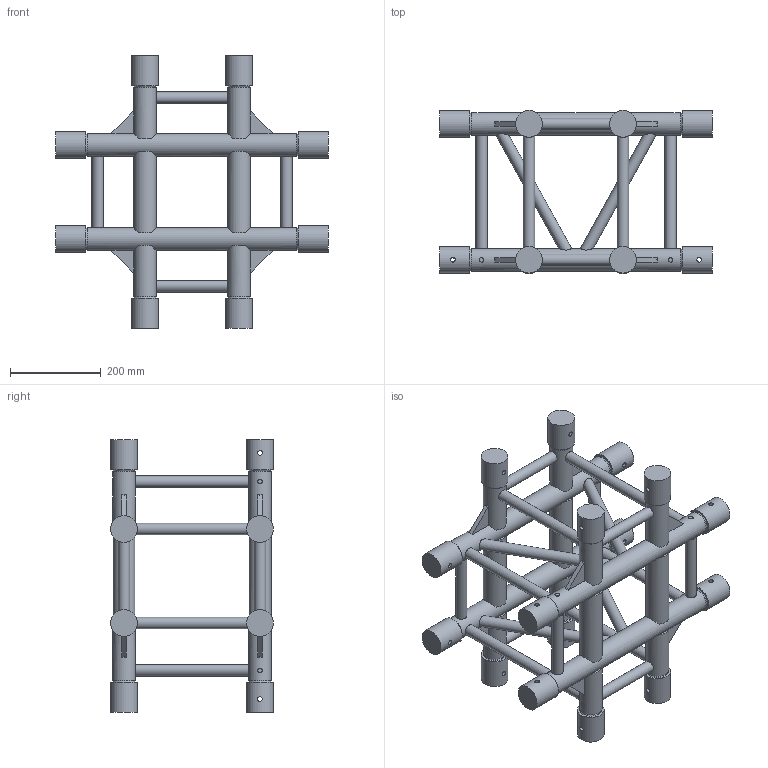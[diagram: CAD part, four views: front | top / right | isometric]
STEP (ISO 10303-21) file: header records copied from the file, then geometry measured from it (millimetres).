
FILE_DESCRIPTION(/* description */ (''),/* implementation_level */ '2;1');
FILE_NAME(/* name */ 'C:\Users\adrian.toca\Desktop\111100013.stp',/* time_stamp */ '2016-12-09T14:44:32+02:00',/* author */ ('adrian.toca'),/* organization */ (''),/* preprocessor_version */ 'ST-DEVELOPER v15.6',/* originating_system */ 'Autodesk Inventor 2015',/* authorisation */ '');
FILE_SCHEMA (('AUTOMOTIVE_DESIGN { 1 0 10303 214 3 1 1 }'));
Length unit declared in the file: millimetre
Products named in the file (1): 260031335
Bounding box: 600 x 357.8 x 600 mm (x, y, z)
Volume: 11589623.2 mm3; surface area: 1187297.3 mm2
Topology: 10 solids, 18 shells, 386 faces, 766 edges, 447 vertices
Faces by surface type: plane 232, cylinder 138, cone 16
Full cylindrical faces by diameter (mm): 10 x16, 25 x20, 50 x16, 58.8 x16
Entity records: 12169 total; most frequent: CARTESIAN_POINT 4029, DIRECTION 1578, ORIENTED_EDGE 1408, AXIS2_PLACEMENT_3D 693, EDGE_CURVE 640, EDGE_LOOP 600, VERTEX_POINT 432, STYLED_ITEM 381
